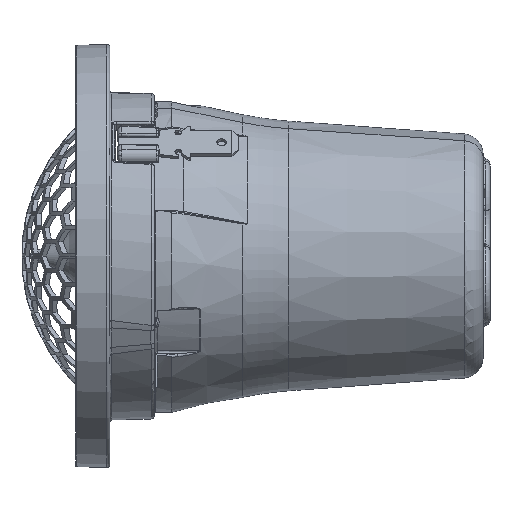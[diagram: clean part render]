
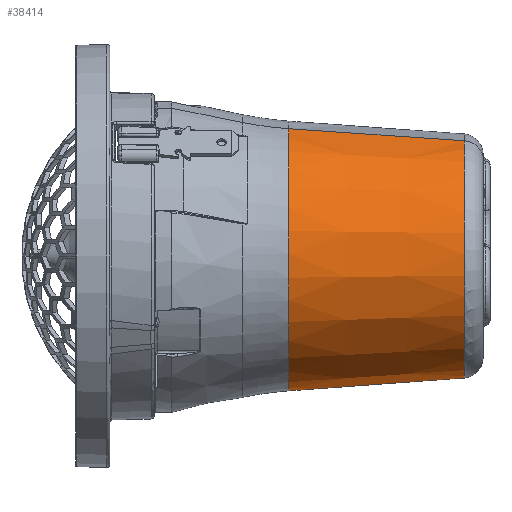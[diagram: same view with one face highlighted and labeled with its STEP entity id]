
A CAD part, left-side view. The second image highlights one B-rep face of the part: STEP entity #38414.
In plain terms, the highlighted conical face has half-angle 4.174 degrees and reference radius 17.781 mm.
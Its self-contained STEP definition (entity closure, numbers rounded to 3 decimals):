
#3771 = DIRECTION ( 'NONE',  ( -0.024, 0.997, 0.069 ) ) ;
#5934 = CONICAL_SURFACE ( 'NONE', #32626, 17.781, 0.073 ) ;
#7354 = VECTOR ( 'NONE', #3771, 1000. ) ;
#9274 = CARTESIAN_POINT ( 'NONE',  ( -5.868, -50.668, 16.785 ) ) ;
#9278 = ORIENTED_EDGE ( 'NONE', *, *, #13970, .F. ) ;
#12078 = VERTEX_POINT ( 'NONE', #26082 ) ;
#13142 = CARTESIAN_POINT ( 'NONE',  ( -6.483, -25.161, 18.542 ) ) ;
#13631 = CARTESIAN_POINT ( 'NONE',  ( 5.868, -50.668, -16.785 ) ) ;
#13970 = EDGE_CURVE ( 'NONE', #26231, #18728, #18775, .T. ) ;
#14649 = DIRECTION ( 'NONE',  ( 0., 1., 0. ) ) ;
#14729 = LINE ( 'NONE', #9274, #7354 ) ;
#16121 = DIRECTION ( 'NONE',  ( 0.33, 0., -0.944 ) ) ;
#17907 = CARTESIAN_POINT ( 'NONE',  ( 6.483, -25.161, -18.542 ) ) ;
#18728 = VERTEX_POINT ( 'NONE', #17907 ) ;
#18775 = LINE ( 'NONE', #13631, #29548 ) ;
#23602 = CARTESIAN_POINT ( 'NONE',  ( 0., -50.668, 0. ) ) ;
#23913 = FACE_OUTER_BOUND ( 'NONE', #57469, .T. ) ;
#26082 = CARTESIAN_POINT ( 'NONE',  ( -5.868, -50.668, 16.785 ) ) ;
#26231 = VERTEX_POINT ( 'NONE', #40641 ) ;
#26905 = AXIS2_PLACEMENT_3D ( 'NONE', #48918, #52463, #63110 ) ;
#29029 = ORIENTED_EDGE ( 'NONE', *, *, #44774, .F. ) ;
#29548 = VECTOR ( 'NONE', #33245, 1000. ) ;
#29587 = DIRECTION ( 'NONE',  ( 0., -1., 0. ) ) ;
#29905 = CARTESIAN_POINT ( 'NONE',  ( 0., -50.668, 0. ) ) ;
#32626 = AXIS2_PLACEMENT_3D ( 'NONE', #23602, #14649, #34856 ) ;
#33245 = DIRECTION ( 'NONE',  ( 0.024, 0.997, -0.069 ) ) ;
#33846 = ORIENTED_EDGE ( 'NONE', *, *, #50163, .T. ) ;
#33859 = VERTEX_POINT ( 'NONE', #13142 ) ;
#34856 = DIRECTION ( 'NONE',  ( -0.33, 0., 0.944 ) ) ;
#36924 = ORIENTED_EDGE ( 'NONE', *, *, #44696, .T. ) ;
#37210 = CIRCLE ( 'NONE', #26905, 19.643 ) ;
#38414 = ADVANCED_FACE ( 'NONE', ( #23913 ), #5934, .T. ) ;
#40641 = CARTESIAN_POINT ( 'NONE',  ( 5.868, -50.668, -16.785 ) ) ;
#44696 = EDGE_CURVE ( 'NONE', #33859, #18728, #37210, .T. ) ;
#44774 = EDGE_CURVE ( 'NONE', #12078, #26231, #49494, .T. ) ;
#45379 = AXIS2_PLACEMENT_3D ( 'NONE', #29905, #29587, #16121 ) ;
#48918 = CARTESIAN_POINT ( 'NONE',  ( 0., -25.161, 0. ) ) ;
#49494 = CIRCLE ( 'NONE', #45379, 17.781 ) ;
#50163 = EDGE_CURVE ( 'NONE', #12078, #33859, #14729, .T. ) ;
#52463 = DIRECTION ( 'NONE',  ( 0., -1., 0. ) ) ;
#57469 = EDGE_LOOP ( 'NONE', ( #9278, #29029, #33846, #36924 ) ) ;
#63110 = DIRECTION ( 'NONE',  ( -0.33, 0., 0.944 ) ) ;
